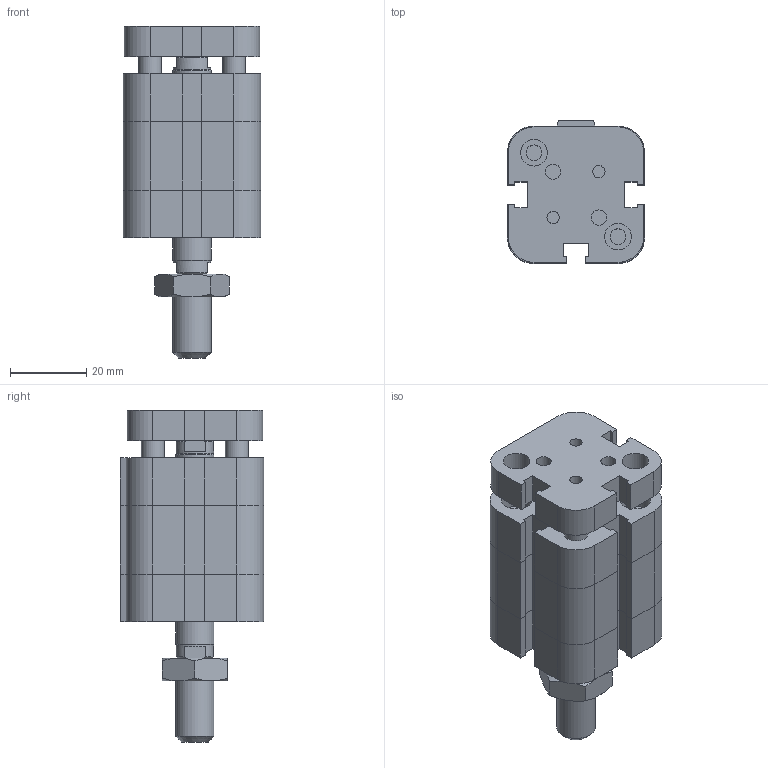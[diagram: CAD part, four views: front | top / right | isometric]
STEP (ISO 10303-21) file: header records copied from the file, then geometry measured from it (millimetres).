
FILE_DESCRIPTION((''),'2;1');
FILE_NAME('I:\Area Tecnica\Disegni\VARIE-3D\Componenti\EUROPE\15##_###_####_09_#\1581_20_0005_09_1.iam.stp','2009-04-20T15:42:57',(''),(''),'Autodesk Inventor 2009','Autodesk Inventor 2009','');
FILE_SCHEMA(('AUTOMOTIVE_DESIGN { 1 0 10303 214 1 1 1 1 }'));
Length unit declared in the file: millimetre
Products named in the file (4): 1581_20_0005_09_1; 1581_20_0005_08_1_C; 1561_20_0005_09_1_SA; DBFM10
Assembly tree (3 placements, depth 2):
  1581_20_0005_09_1
    1581_20_0005_08_1_C
    1561_20_0005_09_1_SA
    DBFM10
Bounding box: 36 x 37.5 x 87 mm (x, y, z)
Volume: 59969.8 mm3; surface area: 22111.5 mm2
Topology: 3 solids, 3 shells, 236 faces, 550 edges, 339 vertices
Faces by surface type: plane 147, bspline 45, cylinder 23, cone 21
Full cylindrical faces by diameter (mm): 6 x2, 8.8 x1, 9.8 x2, 10 x2
Entity records: 6859 total; most frequent: CARTESIAN_POINT 1610, ORIENTED_EDGE 992, DIRECTION 974, EDGE_CURVE 496, VECTOR 350, LINE 350, VERTEX_POINT 322, AXIS2_PLACEMENT_3D 312
